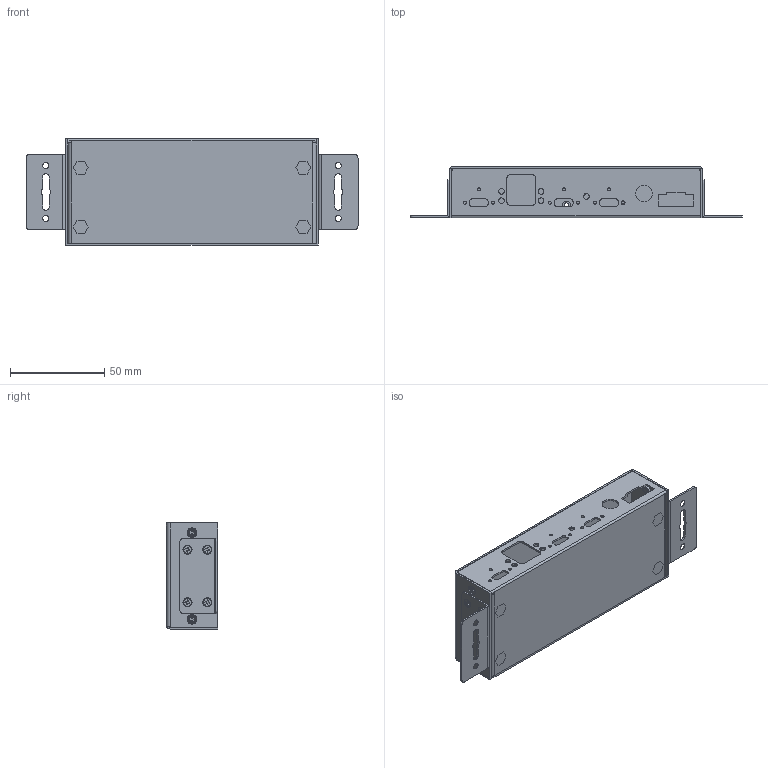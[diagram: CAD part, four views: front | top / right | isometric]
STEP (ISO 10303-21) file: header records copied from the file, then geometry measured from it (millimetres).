
FILE_DESCRIPTION(/* description */ (''),/* implementation_level */ '2;1');
FILE_NAME(/* name */ 'GM-HU34G2_CAD.step',/* time_stamp */ '2024-10-17T15:51:20-04:00',/* author */ (''),/* organization */ (''),/* preprocessor_version */ 'ST-DEVELOPER v20',/* originating_system */ 'Autodesk Translation Framework v13.20.0.188',/* authorisation */ '');
FILE_SCHEMA (('AUTOMOTIVE_DESIGN { 1 0 10303 214 3 1 1 }'));
Length unit declared in the file: millimetre
Products named in the file (8): HUB-CA22_ASM; TOP; BOT_ASM; BOT; MDZ; HUBPA30-38-F-B; FM-3X3_8CCRO; FM3X3_8CCRO-A
Assembly tree (21 placements, depth 3):
  HUB-CA22_ASM
    TOP
    BOT_ASM
      BOT
      MDZ  x4
    HUBPA30-38-F-B  x2
    FM-3X3_8CCRO  x8
    FM3X3_8CCRO-A  x4
Bounding box: 176 x 27.2 x 56.2 mm (x, y, z)
Volume: 29713.2 mm3; surface area: 62432.3 mm2
Topology: 24 solids, 42 shells, 671 faces, 1671 edges, 1064 vertices
Faces by surface type: plane 352, cylinder 166, bspline 114, cone 32, torus 7
Full cylindrical faces by diameter (mm): 1.6 x9, 2 x1, 2.5 x19, 2.6 x16, 3 x22, 3.2 x12, 3.5 x8, 4.2 x8, 4.5 x7, 5.3 x4, 8.8 x1
Entity records: 14904 total; most frequent: CARTESIAN_POINT 6740, DIRECTION 1634, ORIENTED_EDGE 1532, EDGE_CURVE 781, AXIS2_PLACEMENT_3D 594, VERTEX_POINT 489, LINE 446, VECTOR 446
